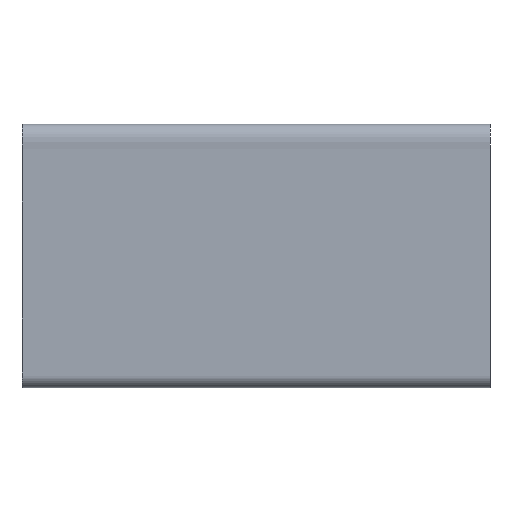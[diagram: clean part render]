
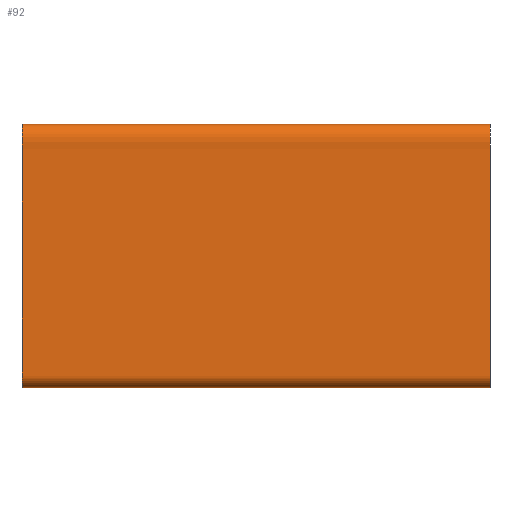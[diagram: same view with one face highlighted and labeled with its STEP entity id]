
A CAD part, left-side view. The second image highlights one B-rep face of the part: STEP entity #92.
In plain terms, the highlighted free-form (B-spline) face has degree [3, 1] with [9, 2] control points.
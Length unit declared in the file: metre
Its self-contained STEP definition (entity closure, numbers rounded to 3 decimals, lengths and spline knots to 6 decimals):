
#12=B_SPLINE_SURFACE_WITH_KNOTS('',3,1,((#211,#212),(#213,#214),(#215,#216),
(#217,#218),(#219,#220),(#221,#222),(#223,#224),(#225,#226),(#227,#228)),
 .SURF_OF_LINEAR_EXTRUSION.,.F.,.F.,.F.,(4,1,1,1,1,1,4),(2,2),(-0.031416,
0.144292,0.232146,0.32,0.495708,0.583562,
0.671416),(0.,1.),.UNSPECIFIED.);
#17=LINE('',#233,#21);
#21=VECTOR('',#112,1.);
#31=ORIENTED_EDGE('',*,*,#55,.T.);
#32=ORIENTED_EDGE('',*,*,#47,.F.);
#33=ORIENTED_EDGE('',*,*,#56,.T.);
#34=ORIENTED_EDGE('',*,*,#51,.F.);
#47=EDGE_CURVE('',#59,#60,#67,.F.);
#51=EDGE_CURVE('',#63,#64,#70,.T.);
#55=EDGE_CURVE('',#63,#60,#73,.F.);
#56=EDGE_CURVE('',#59,#64,#17,.T.);
#59=VERTEX_POINT('',#134);
#60=VERTEX_POINT('',#135);
#63=VERTEX_POINT('',#181);
#64=VERTEX_POINT('',#182);
#67=B_SPLINE_CURVE_WITH_KNOTS('',3,(#118,#119,#120,#121,#122,#123,#124,
#125,#126,#127,#128,#129,#130,#131,#132,#133),.UNSPECIFIED.,.F.,.F.,(4,
3,1,1,1,1,1,1,3,4),(-0.031416,0.198584,0.228279,
0.255908,0.308807,0.366306,0.419205,
0.529602,0.64,0.671416),.UNSPECIFIED.);
#70=B_SPLINE_CURVE_WITH_KNOTS('',3,(#165,#166,#167,#168,#169,#170,#171,
#172,#173,#174,#175,#176,#177,#178,#179,#180),.UNSPECIFIED.,.F.,.F.,(4,
3,1,1,1,1,1,1,3,4),(-0.031416,0.198584,0.228279,
0.255908,0.308807,0.366306,0.419205,
0.529602,0.64,0.671416),.UNSPECIFIED.);
#73=B_SPLINE_CURVE_WITH_KNOTS('',3,(#229,#230,#231,#232),.UNSPECIFIED.,
 .F.,.F.,(4,4),(0.,0.799921),.UNSPECIFIED.);
#77=EDGE_LOOP('',(#31,#32,#33,#34));
#83=FACE_BOUND('',#77,.T.);
#92=ADVANCED_FACE('',(#83),#12,.T.);
#112=DIRECTION('',(0.,-1.,0.));
#118=CARTESIAN_POINT('',(-0.0398,0.00475,-0.02795));
#119=CARTESIAN_POINT('',(-0.039877,0.00475,-0.02795));
#120=CARTESIAN_POINT('',(-0.039953,0.00475,-0.02795));
#121=CARTESIAN_POINT('',(-0.04003,0.00475,-0.02795));
#122=CARTESIAN_POINT('',(-0.040039,0.00475,-0.02795));
#123=CARTESIAN_POINT('',(-0.040054,0.00475,-0.027967));
#124=CARTESIAN_POINT('',(-0.040048,0.00475,-0.028005));
#125=CARTESIAN_POINT('',(-0.040051,0.00475,-0.02805));
#126=CARTESIAN_POINT('',(-0.04005,0.00475,-0.028105));
#127=CARTESIAN_POINT('',(-0.04005,0.00475,-0.028178));
#128=CARTESIAN_POINT('',(-0.04005,0.00475,-0.02827));
#129=CARTESIAN_POINT('',(-0.04005,0.00475,-0.028343));
#130=CARTESIAN_POINT('',(-0.04005,0.00475,-0.02838));
#131=CARTESIAN_POINT('',(-0.04005,0.00475,-0.02839));
#132=CARTESIAN_POINT('',(-0.04004,0.00475,-0.0284));
#133=CARTESIAN_POINT('',(-0.04003,0.00475,-0.0284));
#134=CARTESIAN_POINT('',(-0.04003,0.00475,-0.0284));
#135=CARTESIAN_POINT('',(-0.0398,0.00475,-0.02795));
#165=CARTESIAN_POINT('',(-0.0398,0.00395,-0.02795));
#166=CARTESIAN_POINT('',(-0.039877,0.00395,-0.02795));
#167=CARTESIAN_POINT('',(-0.039953,0.00395,-0.02795));
#168=CARTESIAN_POINT('',(-0.04003,0.00395,-0.02795));
#169=CARTESIAN_POINT('',(-0.040039,0.00395,-0.02795));
#170=CARTESIAN_POINT('',(-0.040054,0.00395,-0.027967));
#171=CARTESIAN_POINT('',(-0.040048,0.00395,-0.028005));
#172=CARTESIAN_POINT('',(-0.040051,0.00395,-0.02805));
#173=CARTESIAN_POINT('',(-0.04005,0.00395,-0.028105));
#174=CARTESIAN_POINT('',(-0.04005,0.00395,-0.028178));
#175=CARTESIAN_POINT('',(-0.04005,0.00395,-0.02827));
#176=CARTESIAN_POINT('',(-0.04005,0.00395,-0.028343));
#177=CARTESIAN_POINT('',(-0.04005,0.00395,-0.02838));
#178=CARTESIAN_POINT('',(-0.04005,0.00395,-0.02839));
#179=CARTESIAN_POINT('',(-0.04004,0.00395,-0.0284));
#180=CARTESIAN_POINT('',(-0.04003,0.00395,-0.0284));
#181=CARTESIAN_POINT('',(-0.0398,0.00395,-0.02795));
#182=CARTESIAN_POINT('',(-0.04003,0.00395,-0.0284));
#211=CARTESIAN_POINT('',(-0.0398,0.00475,-0.02795));
#212=CARTESIAN_POINT('',(-0.0398,0.00395,-0.02795));
#213=CARTESIAN_POINT('',(-0.039859,0.00475,-0.02795));
#214=CARTESIAN_POINT('',(-0.039859,0.00395,-0.02795));
#215=CARTESIAN_POINT('',(-0.039942,0.00475,-0.027947));
#216=CARTESIAN_POINT('',(-0.039942,0.00395,-0.027947));
#217=CARTESIAN_POINT('',(-0.040071,0.00475,-0.027955));
#218=CARTESIAN_POINT('',(-0.040071,0.00395,-0.027955));
#219=CARTESIAN_POINT('',(-0.040038,0.00475,-0.028099));
#220=CARTESIAN_POINT('',(-0.040038,0.00395,-0.028099));
#221=CARTESIAN_POINT('',(-0.040054,0.00475,-0.02821));
#222=CARTESIAN_POINT('',(-0.040054,0.00395,-0.02821));
#223=CARTESIAN_POINT('',(-0.040046,0.00475,-0.028316));
#224=CARTESIAN_POINT('',(-0.040046,0.00395,-0.028316));
#225=CARTESIAN_POINT('',(-0.040059,0.00475,-0.0284));
#226=CARTESIAN_POINT('',(-0.040059,0.00395,-0.0284));
#227=CARTESIAN_POINT('',(-0.04003,0.00475,-0.0284));
#228=CARTESIAN_POINT('',(-0.04003,0.00395,-0.0284));
#229=CARTESIAN_POINT('',(-0.0398,0.00475,-0.02795));
#230=CARTESIAN_POINT('',(-0.0398,0.004483,-0.02795));
#231=CARTESIAN_POINT('',(-0.0398,0.004217,-0.02795));
#232=CARTESIAN_POINT('',(-0.0398,0.00395,-0.02795));
#233=CARTESIAN_POINT('',(-0.04003,0.00475,-0.0284));
